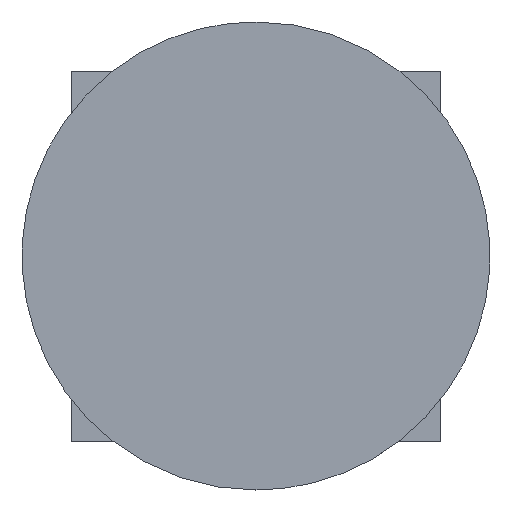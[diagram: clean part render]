
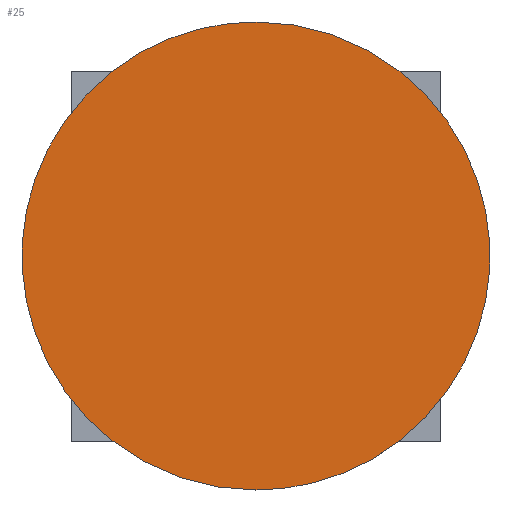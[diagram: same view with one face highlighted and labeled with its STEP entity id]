
A CAD part, top view. The second image highlights one B-rep face of the part: STEP entity #25.
In plain terms, the highlighted planar face has unit normal (0, 0, 1).
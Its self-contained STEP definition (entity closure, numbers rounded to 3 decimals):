
#25=ADVANCED_FACE('',(#41),#243,.T.);
#41=FACE_OUTER_BOUND('',#57,.T.);
#57=EDGE_LOOP('',(#95,#96));
#95=ORIENTED_EDGE('',*,*,#177,.F.);
#96=ORIENTED_EDGE('',*,*,#151,.F.);
#151=EDGE_CURVE('',#220,#237,#205,.T.);
#177=EDGE_CURVE('',#237,#220,#213,.T.);
#205=(
BOUNDED_CURVE()
B_SPLINE_CURVE(2,(#400,#401,#402,#403,#404),.UNSPECIFIED.,.F.,.F.)
B_SPLINE_CURVE_WITH_KNOTS((3,2,3),(0.,251.327,502.655),
 .UNSPECIFIED.)
CURVE()
GEOMETRIC_REPRESENTATION_ITEM()
RATIONAL_B_SPLINE_CURVE((1.,0.707,1.,0.707,1.))
REPRESENTATION_ITEM('')
);
#213=(
BOUNDED_CURVE()
B_SPLINE_CURVE(2,(#467,#468,#469,#470,#471),.UNSPECIFIED.,.F.,.F.)
B_SPLINE_CURVE_WITH_KNOTS((3,2,3),(502.655,753.982,1005.31),
 .UNSPECIFIED.)
CURVE()
GEOMETRIC_REPRESENTATION_ITEM()
RATIONAL_B_SPLINE_CURVE((1.,0.707,1.,0.707,1.))
REPRESENTATION_ITEM('')
);
#220=VERTEX_POINT('',#362);
#237=VERTEX_POINT('',#379);
#243=PLANE('',#279);
#279=AXIS2_PLACEMENT_3D('',#329,#294,$);
#294=DIRECTION('',(0.,0.,1.));
#329=CARTESIAN_POINT('',(-844.079,315.801,500.094));
#362=CARTESIAN_POINT('',(-1156.579,-246.699,500.094));
#379=CARTESIAN_POINT('',(-1156.579,253.301,500.094));
#400=CARTESIAN_POINT('',(-1156.579,-246.699,500.094));
#401=CARTESIAN_POINT('',(-1406.579,-246.699,500.094));
#402=CARTESIAN_POINT('',(-1406.579,3.301,500.094));
#403=CARTESIAN_POINT('',(-1406.579,253.301,500.094));
#404=CARTESIAN_POINT('',(-1156.579,253.301,500.094));
#467=CARTESIAN_POINT('',(-1156.579,253.301,500.094));
#468=CARTESIAN_POINT('',(-906.579,253.301,500.094));
#469=CARTESIAN_POINT('',(-906.579,3.301,500.094));
#470=CARTESIAN_POINT('',(-906.579,-246.699,500.094));
#471=CARTESIAN_POINT('',(-1156.579,-246.699,500.094));
